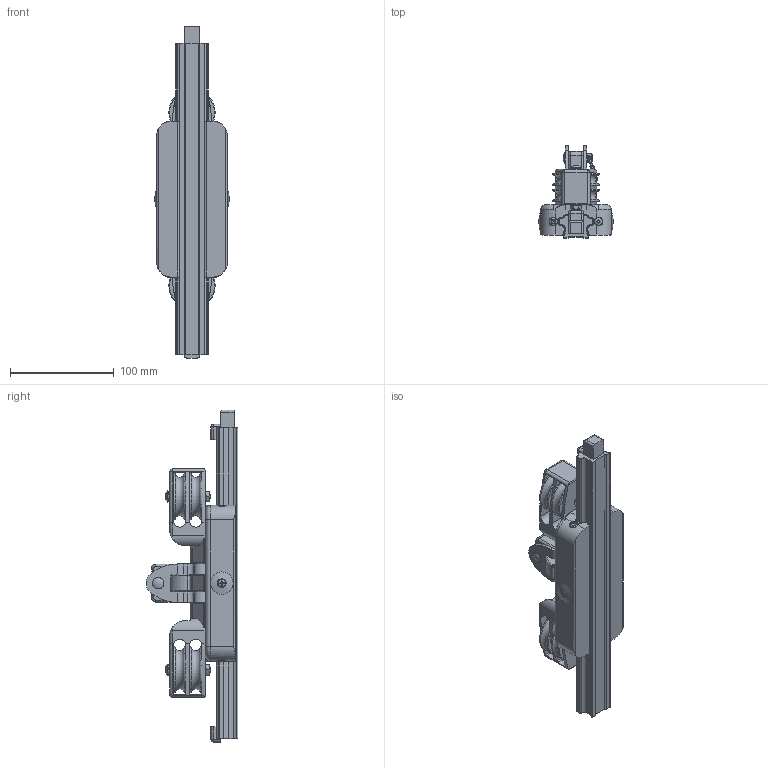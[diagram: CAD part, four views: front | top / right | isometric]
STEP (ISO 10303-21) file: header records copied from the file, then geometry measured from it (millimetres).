
FILE_DESCRIPTION(/* description */ (''),/* implementation_level */ '2;1');
FILE_NAME(/* name */ 'D:\Utenti\lucade\Desktop\4154.stp',/* time_stamp */ '2020-08-17T10:49:14+02:00',/* author */ ('lucade'),/* organization */ (''),/* preprocessor_version */ 'ST-DEVELOPER v18.1',/* originating_system */ 'Autodesk Inventor 2021',/* authorisation */ '');
FILE_SCHEMA (('AUTOMOTIVE_DESIGN { 1 0 10303 214 3 1 1 }'));
Length unit declared in the file: millimetre
Products named in the file (1): 4154
Bounding box: 71.95 x 88.45 x 319.8 mm (x, y, z)
Volume: 560471.4 mm3; surface area: 118613.5 mm2
Topology: 3 solids, 7 shells, 1017 faces, 2741 edges, 1726 vertices
Faces by surface type: plane 416, cylinder 364, torus 94, cone 60, bspline 60, sphere 23
Full cylindrical faces by diameter (mm): 3.5 x2, 3.6 x2, 5 x4, 6 x2, 6.8 x2, 8 x2, 8.2 x5, 8.4 x4, 8.5 x6, 10 x4, 10.5 x12, 11.7 x6, 17 x4, 28 x6
Entity records: 34809 total; most frequent: CARTESIAN_POINT 9337, DIRECTION 5455, ORIENTED_EDGE 5452, EDGE_CURVE 2726, AXIS2_PLACEMENT_3D 2159, VERTEX_POINT 1726, LINE 1137, VECTOR 1137
